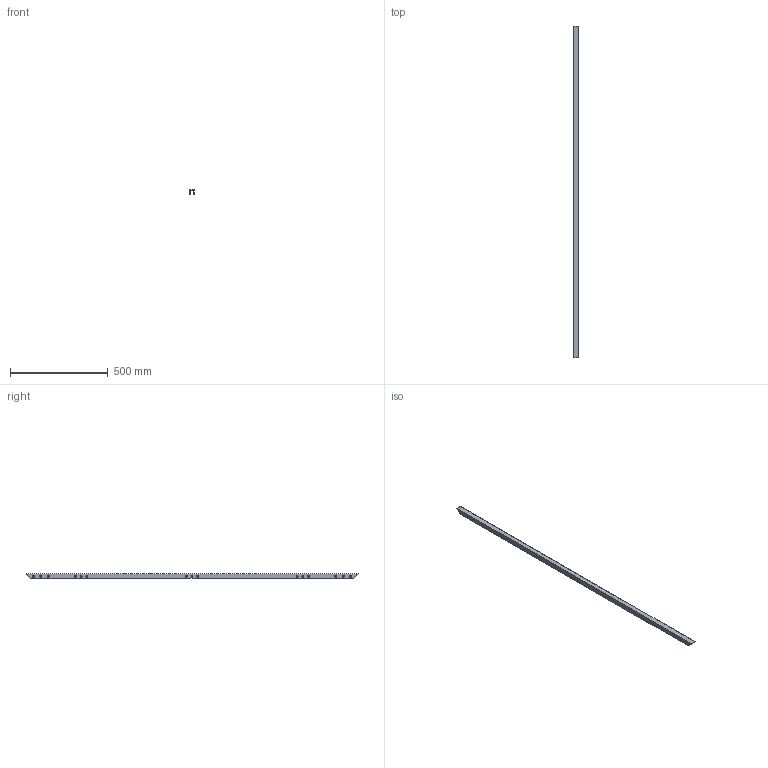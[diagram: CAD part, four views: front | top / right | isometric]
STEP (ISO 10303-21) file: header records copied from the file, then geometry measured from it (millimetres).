
FILE_DESCRIPTION(('FreeCAD Model'),'2;1');
FILE_NAME('Open CASCADE Shape Model','2026-10-06T09:33:39',('FreeCAD'),( 'FreeCAD'),'Open CASCADE STEP processor 7.8','FreeCAD','Unknown');
FILE_SCHEMA(('AUTOMOTIVE_DESIGN { 1 0 10303 214 1 1 1 1 }'));
Length unit declared in the file: millimetre
Products named in the file (1): Open CASCADE STEP translator 7.8 95
Bounding box: 25.4 x 1697.54 x 25.4 mm (x, y, z)
Volume: 370213.7 mm3; surface area: 245415.7 mm2
Topology: 1 solids, 1 shells, 40 faces, 99 edges, 61 vertices
Faces by surface type: cylinder 15, cone 15, plane 10
Full cylindrical faces by diameter (mm): 5.5 x15
Entity records: 1258 total; most frequent: DIRECTION 226, CARTESIAN_POINT 201, ORIENTED_EDGE 198, EDGE_CURVE 99, AXIS2_PLACEMENT_3D 86, FACE_BOUND 70, EDGE_LOOP 70, VERTEX_POINT 61
